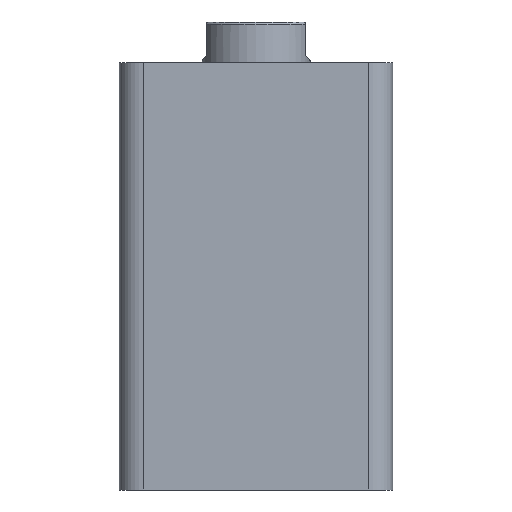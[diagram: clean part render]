
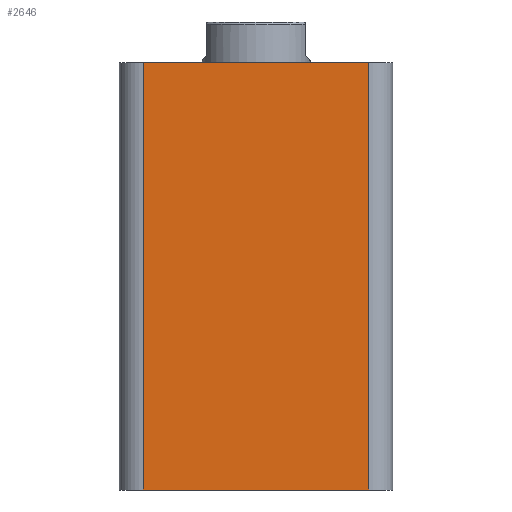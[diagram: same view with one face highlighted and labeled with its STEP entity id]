
A CAD part, front view. The second image highlights one B-rep face of the part: STEP entity #2646.
In plain terms, the highlighted planar face has unit normal (0, -1, 0).
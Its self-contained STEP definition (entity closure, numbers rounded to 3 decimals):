
#44 = VERTEX_POINT ( 'NONE', #711 ) ;
#59 = VERTEX_POINT ( 'NONE', #683 ) ;
#61 = VERTEX_POINT ( 'NONE', #681 ) ;
#79 = VERTEX_POINT ( 'NONE', #654 ) ;
#382 = EDGE_LOOP ( 'NONE', ( #1566, #1567, #1564, #1565 ) ) ;
#564 = CARTESIAN_POINT ( 'NONE',  ( 47., -57., 178. ) ) ;
#574 = CARTESIAN_POINT ( 'NONE',  ( -57., -57., 0. ) ) ;
#576 = DIRECTION ( 'NONE',  ( 1., 0., 0. ) ) ;
#577 = DIRECTION ( 'NONE',  ( 0., 0., 1. ) ) ;
#578 = CARTESIAN_POINT ( 'NONE',  ( -57., -57., 178. ) ) ;
#579 = DIRECTION ( 'NONE',  ( 1., 0., 0. ) ) ;
#580 = CARTESIAN_POINT ( 'NONE',  ( -47., -57., 178. ) ) ;
#582 = DIRECTION ( 'NONE',  ( 0., 0., -1. ) ) ;
#654 = CARTESIAN_POINT ( 'NONE',  ( 47., -57., 178. ) ) ;
#681 = CARTESIAN_POINT ( 'NONE',  ( -47., -57., 178. ) ) ;
#683 = CARTESIAN_POINT ( 'NONE',  ( -47., -57., 0. ) ) ;
#711 = CARTESIAN_POINT ( 'NONE',  ( 47., -57., 0. ) ) ;
#1031 = AXIS2_PLACEMENT_3D ( 'NONE', #1848, #1852, #1853 ) ;
#1252 = LINE ( 'NONE', #564, #1263 ) ;
#1258 = LINE ( 'NONE', #574, #1261 ) ;
#1261 = VECTOR ( 'NONE', #576, 1000. ) ;
#1262 = LINE ( 'NONE', #578, #1265 ) ;
#1263 = VECTOR ( 'NONE', #577, 1000. ) ;
#1264 = LINE ( 'NONE', #580, #1267 ) ;
#1265 = VECTOR ( 'NONE', #579, 1000. ) ;
#1267 = VECTOR ( 'NONE', #582, 1000. ) ;
#1425 = FACE_OUTER_BOUND ( 'NONE', #382, .T. ) ;
#1564 = ORIENTED_EDGE ( 'NONE', *, *, #2558, .F. ) ;
#1565 = ORIENTED_EDGE ( 'NONE', *, *, #2559, .T. ) ;
#1566 = ORIENTED_EDGE ( 'NONE', *, *, #2556, .T. ) ;
#1567 = ORIENTED_EDGE ( 'NONE', *, *, #2557, .T. ) ;
#1848 = CARTESIAN_POINT ( 'NONE',  ( -57., -57., 178. ) ) ;
#1850 = PLANE ( 'NONE',  #1031 ) ;
#1852 = DIRECTION ( 'NONE',  ( 0., 1., 0. ) ) ;
#1853 = DIRECTION ( 'NONE',  ( 0., 0., 1. ) ) ;
#2556 = EDGE_CURVE ( 'NONE', #59, #44, #1258, .T. ) ;
#2557 = EDGE_CURVE ( 'NONE', #44, #79, #1252, .T. ) ;
#2558 = EDGE_CURVE ( 'NONE', #61, #79, #1262, .T. ) ;
#2559 = EDGE_CURVE ( 'NONE', #61, #59, #1264, .T. ) ;
#2646 = ADVANCED_FACE ( 'NONE', ( #1425 ), #1850, .F. ) ;
